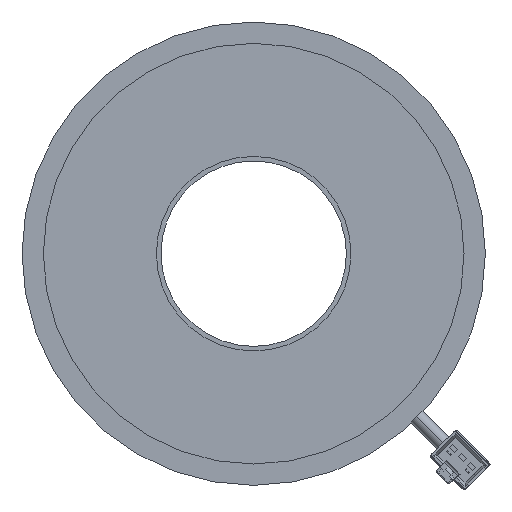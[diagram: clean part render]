
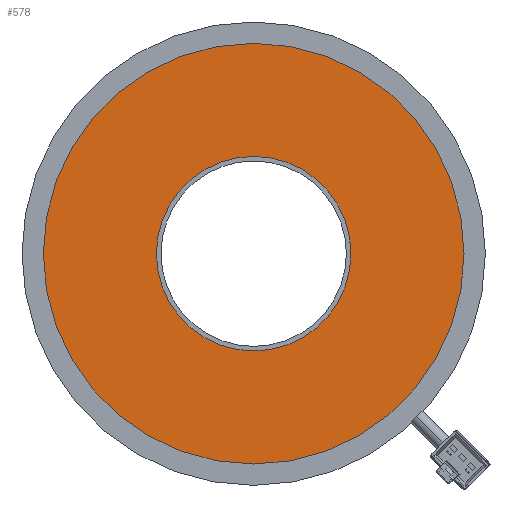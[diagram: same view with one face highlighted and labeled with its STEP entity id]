
A CAD part, front view. The second image highlights one B-rep face of the part: STEP entity #578.
In plain terms, the highlighted planar face has unit normal (0, -1, 0).
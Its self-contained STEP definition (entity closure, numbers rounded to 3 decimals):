
#29=CARTESIAN_POINT('',(0.,-11.6,0.));
#30=DIRECTION('',(0.,1.,0.));
#31=DIRECTION('',(1.,0.,0.));
#32=AXIS2_PLACEMENT_3D('',#29,#30,#31);
#34=CARTESIAN_POINT('',(0.,-11.6,0.));
#35=DIRECTION('',(0.,1.,0.));
#36=DIRECTION('',(-1.,0.,0.));
#37=AXIS2_PLACEMENT_3D('',#34,#35,#36);
#39=CARTESIAN_POINT('',(0.,-11.6,0.));
#40=DIRECTION('',(0.,-1.,0.));
#41=DIRECTION('',(1.,0.,0.));
#42=AXIS2_PLACEMENT_3D('',#39,#40,#41);
#44=CARTESIAN_POINT('',(0.,-11.6,0.));
#45=DIRECTION('',(0.,-1.,0.));
#46=DIRECTION('',(-1.,0.,0.));
#47=AXIS2_PLACEMENT_3D('',#44,#45,#46);
#485=CARTESIAN_POINT('',(-45.4,-11.6,0.));
#486=VERTEX_POINT('',#485);
#487=CARTESIAN_POINT('',(45.4,-11.6,0.));
#488=VERTEX_POINT('',#487);
#489=CARTESIAN_POINT('',(21.,-11.6,0.));
#490=CARTESIAN_POINT('',(-21.,-11.6,0.));
#491=VERTEX_POINT('',#489);
#492=VERTEX_POINT('',#490);
#563=CARTESIAN_POINT('',(0.,-11.6,0.));
#564=DIRECTION('',(0.,1.,0.));
#565=DIRECTION('',(1.,0.,0.));
#566=AXIS2_PLACEMENT_3D('',#563,#564,#565);
#567=PLANE('',#566);
#569=ORIENTED_EDGE('',*,*,#568,.T.);
#571=ORIENTED_EDGE('',*,*,#570,.T.);
#572=EDGE_LOOP('',(#569,#571));
#573=FACE_OUTER_BOUND('',#572,.F.);
#574=ORIENTED_EDGE('',*,*,#556,.T.);
#575=ORIENTED_EDGE('',*,*,#545,.T.);
#576=EDGE_LOOP('',(#574,#575));
#577=FACE_BOUND('',#576,.F.);
#33=CIRCLE('',#32,45.4);
#38=CIRCLE('',#37,45.4);
#43=CIRCLE('',#42,21.);
#48=CIRCLE('',#47,21.);
#545=EDGE_CURVE('',#492,#491,#48,.T.);
#556=EDGE_CURVE('',#491,#492,#43,.T.);
#568=EDGE_CURVE('',#488,#486,#33,.T.);
#570=EDGE_CURVE('',#486,#488,#38,.T.);
#578=ADVANCED_FACE('',(#573,#577),#567,.F.);
